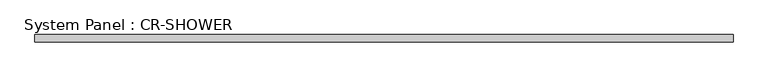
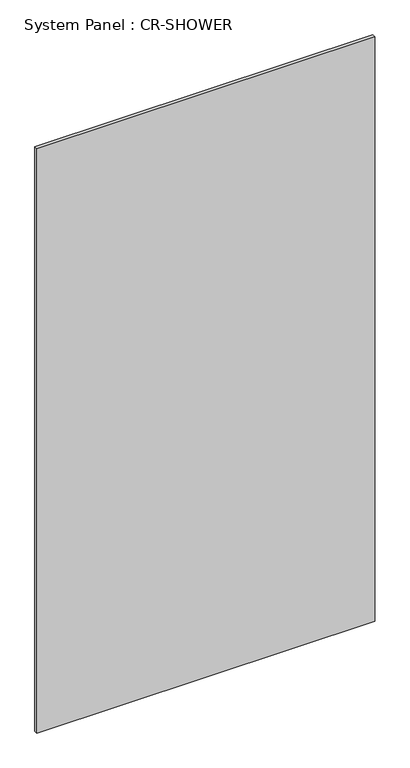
"""IFC4 building model written with IfcOpenShell, lengths in millimetres: plate geometry, System Panel : CR-SHOWER."""

from ifc_helpers import new_model, si_unit, origin, origin_with_axes, place, context, project, spatial, polyline, outline, extrude, source, transform, mapped, element, save


def system_panel_cr_shower_b944c943(model_context):
    return source(origin(), model_context, "Body", "SweptSolid", [
        extrude(outline(polyline([(615.025, -12.45), (-615.025, -12.45), (-615.025, 0.05), (615.025, 0.05), (615.025, -12.45)])), origin_with_axes(), (0.0, 0.0, 1.0), 2250.0),
    ])


if __name__ == "__main__":
    model = new_model("IFC4")
    model_context = context("Model", 3, world=origin())
    ifc_project = project(units=[si_unit("LENGTHUNIT", "METRE", prefix="MILLI")], contexts=[model_context])
    site = spatial("IfcSite", under=ifc_project)
    building = spatial("IfcBuilding", under=site)
    placement = place(None, origin())
    system_panel_cr_shower_shape = system_panel_cr_shower_b944c943(model_context)
    element("IfcPlate", 1, ObjectType="System Panel : CR-SHOWER", at=placement, inside=building, context=model_context, shape_type="MappedRepresentation", body=[
        mapped(system_panel_cr_shower_shape, transform((0.0, 0.0, 0.0), x_axis=(1.0, 0.0, 0.0), y_axis=(0.0, 1.0, 0.0), z_axis=(0.0, 0.0, 1.0))),
    ])
    save(model, "model.ifc")
